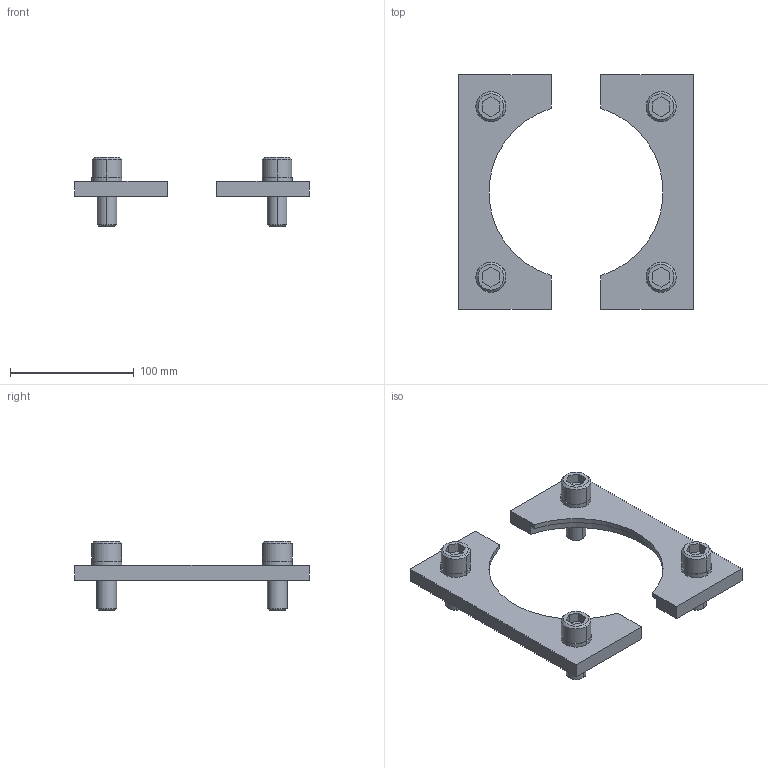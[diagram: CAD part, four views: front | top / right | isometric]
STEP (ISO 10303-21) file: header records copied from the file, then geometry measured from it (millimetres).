
FILE_DESCRIPTION(/* description */ (''),/* implementation_level */ '2;1');
FILE_NAME(/* name */ '3d_sf150_05183_r00.stp',/* time_stamp */ '2011-01-10T14:11:14+09:00',/* author */ ('MISUMI'),/* organization */ (''),/* preprocessor_version */ 'ST-DEVELOPER v11',/* originating_system */ 'UGS - NX 5.0',/* authorisation */ '');
FILE_SCHEMA (('CONFIG_CONTROL_DESIGN'));
Length unit declared in the file: millimetre
Products named in the file (1): 3d_sf150_05183_r00
Bounding box: 190 x 190 x 56 mm (x, y, z)
Volume: 254359.8 mm3; surface area: 72986.4 mm2
Topology: 10 solids, 10 shells, 136 faces, 304 edges, 196 vertices
Faces by surface type: plane 76, cylinder 44, cone 16
Entity records: 3856 total; most frequent: DIRECTION 682, CARTESIAN_POINT 637, ORIENTED_EDGE 608, EDGE_CURVE 304, AXIS2_PLACEMENT_3D 241, LINE 200, VECTOR 200, VERTEX_POINT 196
